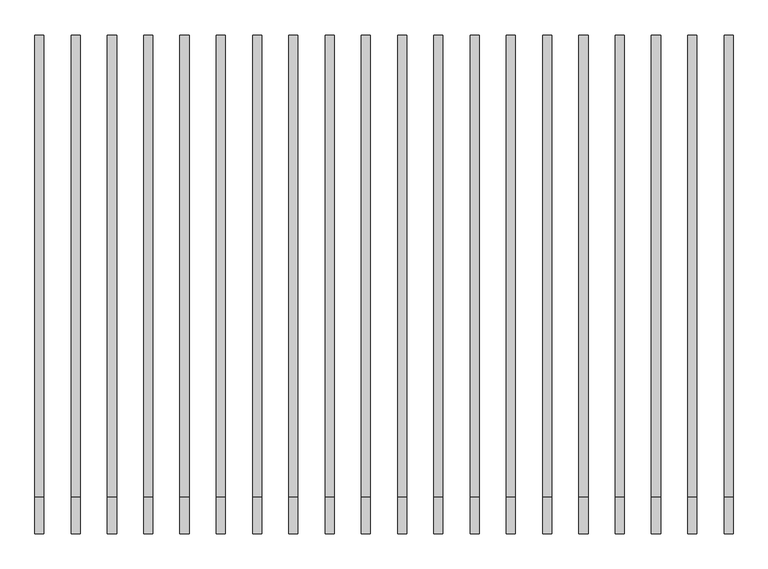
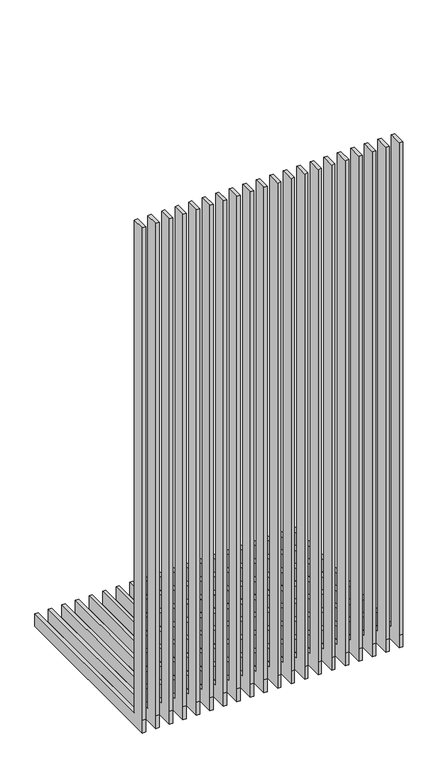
"""IFC4 building model written with IfcOpenShell, lengths in millimetres: railing geometry, 南向隔柵75 : 南向隔柵1."""

from ifc_helpers import new_model, si_unit, frame, origin, place, context, project, spatial, polyline, outline, extrude, source, transform, mapped, element, save


def railing_3cd46176(model_context):
    return source(origin(), model_context, "Body", "SweptSolid", [
        extrude(outline(polyline([(-27879.9049261, 22700.0), (-22779.9049261, 22700.0), (-22779.9049261, 22300.0), (-28279.9049261, 22300.0), (-28279.9049261, 22700.0), (-28279.9049261, 38100.0), (-27879.9049261, 38100.0), (-27879.9049261, 22700.0)])), frame((140.8689945, 0.0, 0.0), z_axis=(1.0, 0.0, 0.0), x_axis=(0.0, 1.0, 0.0)), (0.0, 0.0, 1.0), 100.0),
        extrude(outline(polyline([(-27879.9049261, 22700.0), (-22779.9049261, 22700.0), (-22779.9049261, 22300.0), (-28279.9049261, 22300.0), (-28279.9049261, 22700.0), (-28279.9049261, 38100.0), (-27879.9049261, 38100.0), (-27879.9049261, 22700.0)])), frame((-259.1310055, 0.0, 0.0), z_axis=(1.0, 0.0, 0.0), x_axis=(0.0, 1.0, 0.0)), (0.0, 0.0, 1.0), 100.0),
        extrude(outline(polyline([(-27879.9049261, 22700.0), (-22779.9049261, 22700.0), (-22779.9049261, 22300.0), (-28279.9049261, 22300.0), (-28279.9049261, 22700.0), (-28279.9049261, 38100.0), (-27879.9049261, 38100.0), (-27879.9049261, 22700.0)])), frame((-659.1310055, 0.0, 0.0), z_axis=(1.0, 0.0, 0.0), x_axis=(0.0, 1.0, 0.0)), (0.0, 0.0, 1.0), 100.0),
        extrude(outline(polyline([(-27879.9049261, 22700.0), (-22779.9049261, 22700.0), (-22779.9049261, 22300.0), (-28279.9049261, 22300.0), (-28279.9049261, 22700.0), (-28279.9049261, 38100.0), (-27879.9049261, 38100.0), (-27879.9049261, 22700.0)])), frame((-1059.1310055, 0.0, 0.0), z_axis=(1.0, 0.0, 0.0), x_axis=(0.0, 1.0, 0.0)), (0.0, 0.0, 1.0), 100.0),
        extrude(outline(polyline([(-27879.9049261, 22700.0), (-22779.9049261, 22700.0), (-22779.9049261, 22300.0), (-28279.9049261, 22300.0), (-28279.9049261, 22700.0), (-28279.9049261, 38100.0), (-27879.9049261, 38100.0), (-27879.9049261, 22700.0)])), frame((-1459.1310055, 0.0, 0.0), z_axis=(1.0, 0.0, 0.0), x_axis=(0.0, 1.0, 0.0)), (0.0, 0.0, 1.0), 100.0),
        extrude(outline(polyline([(-27879.9049261, 22700.0), (-22779.9049261, 22700.0), (-22779.9049261, 22300.0), (-28279.9049261, 22300.0), (-28279.9049261, 22700.0), (-28279.9049261, 38100.0), (-27879.9049261, 38100.0), (-27879.9049261, 22700.0)])), frame((-1859.1310055, 0.0, 0.0), z_axis=(1.0, 0.0, 0.0), x_axis=(0.0, 1.0, 0.0)), (0.0, 0.0, 1.0), 100.0),
        extrude(outline(polyline([(-27879.9049261, 22700.0), (-22779.9049261, 22700.0), (-22779.9049261, 22300.0), (-28279.9049261, 22300.0), (-28279.9049261, 22700.0), (-28279.9049261, 38100.0), (-27879.9049261, 38100.0), (-27879.9049261, 22700.0)])), frame((-2259.1310054, 0.0, 0.0), z_axis=(1.0, 0.0, 0.0), x_axis=(0.0, 1.0, 0.0)), (0.0, 0.0, 1.0), 100.0),
        extrude(outline(polyline([(-27879.9049261, 22700.0), (-22779.9049261, 22700.0), (-22779.9049261, 22300.0), (-28279.9049261, 22300.0), (-28279.9049261, 22700.0), (-28279.9049261, 38100.0), (-27879.9049261, 38100.0), (-27879.9049261, 22700.0)])), frame((-2659.1310054, 0.0, 0.0), z_axis=(1.0, 0.0, 0.0), x_axis=(0.0, 1.0, 0.0)), (0.0, 0.0, 1.0), 100.0),
        extrude(outline(polyline([(-27879.9049261, 22700.0), (-22779.9049261, 22700.0), (-22779.9049261, 22300.0), (-28279.9049261, 22300.0), (-28279.9049261, 22700.0), (-28279.9049261, 38100.0), (-27879.9049261, 38100.0), (-27879.9049261, 22700.0)])), frame((-3059.1310054, 0.0, 0.0), z_axis=(1.0, 0.0, 0.0), x_axis=(0.0, 1.0, 0.0)), (0.0, 0.0, 1.0), 100.0),
        extrude(outline(polyline([(-27879.9049261, 22700.0), (-22779.9049261, 22700.0), (-22779.9049261, 22300.0), (-28279.9049261, 22300.0), (-28279.9049261, 22700.0), (-28279.9049261, 38100.0), (-27879.9049261, 38100.0), (-27879.9049261, 22700.0)])), frame((-3459.1310054, 0.0, 0.0), z_axis=(1.0, 0.0, 0.0), x_axis=(0.0, 1.0, 0.0)), (0.0, 0.0, 1.0), 100.0),
        extrude(outline(polyline([(-27879.9049261, 22700.0), (-22779.9049261, 22700.0), (-22779.9049261, 22300.0), (-28279.9049261, 22300.0), (-28279.9049261, 22700.0), (-28279.9049261, 38100.0), (-27879.9049261, 38100.0), (-27879.9049261, 22700.0)])), frame((-3859.1310054, 0.0, 0.0), z_axis=(1.0, 0.0, 0.0), x_axis=(0.0, 1.0, 0.0)), (0.0, 0.0, 1.0), 100.0),
        extrude(outline(polyline([(-27879.9049261, 22700.0), (-22779.9049261, 22700.0), (-22779.9049261, 22300.0), (-28279.9049261, 22300.0), (-28279.9049261, 22700.0), (-28279.9049261, 38100.0), (-27879.9049261, 38100.0), (-27879.9049261, 22700.0)])), frame((-4259.1310054, 0.0, 0.0), z_axis=(1.0, 0.0, 0.0), x_axis=(0.0, 1.0, 0.0)), (0.0, 0.0, 1.0), 100.0),
        extrude(outline(polyline([(-27879.9049261, 22700.0), (-22779.9049261, 22700.0), (-22779.9049261, 22300.0), (-28279.9049261, 22300.0), (-28279.9049261, 22700.0), (-28279.9049261, 38100.0), (-27879.9049261, 38100.0), (-27879.9049261, 22700.0)])), frame((-4659.1310054, 0.0, 0.0), z_axis=(1.0, 0.0, 0.0), x_axis=(0.0, 1.0, 0.0)), (0.0, 0.0, 1.0), 100.0),
        extrude(outline(polyline([(-27879.9049261, 22700.0), (-22779.9049261, 22700.0), (-22779.9049261, 22300.0), (-28279.9049261, 22300.0), (-28279.9049261, 22700.0), (-28279.9049261, 38100.0), (-27879.9049261, 38100.0), (-27879.9049261, 22700.0)])), frame((-5059.1310054, 0.0, 0.0), z_axis=(1.0, 0.0, 0.0), x_axis=(0.0, 1.0, 0.0)), (0.0, 0.0, 1.0), 100.0),
        extrude(outline(polyline([(-27879.9049261, 22700.0), (-22779.9049261, 22700.0), (-22779.9049261, 22300.0), (-28279.9049261, 22300.0), (-28279.9049261, 22700.0), (-28279.9049261, 38100.0), (-27879.9049261, 38100.0), (-27879.9049261, 22700.0)])), frame((-5459.1310054, 0.0, 0.0), z_axis=(1.0, 0.0, 0.0), x_axis=(0.0, 1.0, 0.0)), (0.0, 0.0, 1.0), 100.0),
        extrude(outline(polyline([(-27879.9049261, 22700.0), (-22779.9049261, 22700.0), (-22779.9049261, 22300.0), (-28279.9049261, 22300.0), (-28279.9049261, 22700.0), (-28279.9049261, 38100.0), (-27879.9049261, 38100.0), (-27879.9049261, 22700.0)])), frame((-5859.1310054, 0.0, 0.0), z_axis=(1.0, 0.0, 0.0), x_axis=(0.0, 1.0, 0.0)), (0.0, 0.0, 1.0), 100.0),
        extrude(outline(polyline([(-27879.9049261, 22700.0), (-22779.9049261, 22700.0), (-22779.9049261, 22300.0), (-28279.9049261, 22300.0), (-28279.9049261, 22700.0), (-28279.9049261, 38100.0), (-27879.9049261, 38100.0), (-27879.9049261, 22700.0)])), frame((-6259.1310054, 0.0, 0.0), z_axis=(1.0, 0.0, 0.0), x_axis=(0.0, 1.0, 0.0)), (0.0, 0.0, 1.0), 100.0),
        extrude(outline(polyline([(-27879.9049261, 22700.0), (-22779.9049261, 22700.0), (-22779.9049261, 22300.0), (-28279.9049261, 22300.0), (-28279.9049261, 22700.0), (-28279.9049261, 38100.0), (-27879.9049261, 38100.0), (-27879.9049261, 22700.0)])), frame((-6659.1310053, 0.0, 0.0), z_axis=(1.0, 0.0, 0.0), x_axis=(0.0, 1.0, 0.0)), (0.0, 0.0, 1.0), 100.0),
        extrude(outline(polyline([(-27879.9049261, 22700.0), (-22779.9049261, 22700.0), (-22779.9049261, 22300.0), (-28279.9049261, 22300.0), (-28279.9049261, 22700.0), (-28279.9049261, 38100.0), (-27879.9049261, 38100.0), (-27879.9049261, 22700.0)])), frame((-7059.1310053, 0.0, 0.0), z_axis=(1.0, 0.0, 0.0), x_axis=(0.0, 1.0, 0.0)), (0.0, 0.0, 1.0), 100.0),
        extrude(outline(polyline([(-27879.9049261, 22700.0), (-22779.9049261, 22700.0), (-22779.9049261, 22300.0), (-28279.9049261, 22300.0), (-28279.9049261, 22700.0), (-28279.9049261, 38100.0), (-27879.9049261, 38100.0), (-27879.9049261, 22700.0)])), frame((-7459.1310053, 0.0, 0.0), z_axis=(1.0, 0.0, 0.0), x_axis=(0.0, 1.0, 0.0)), (0.0, 0.0, 1.0), 100.0),
    ])


if __name__ == "__main__":
    model = new_model("IFC4")
    model_context = context("Model", 3, world=origin())
    ifc_project = project(units=[si_unit("LENGTHUNIT", "METRE", prefix="MILLI")], contexts=[model_context])
    site = spatial("IfcSite", under=ifc_project)
    building = spatial("IfcBuilding", under=site)
    placement = place(None, origin())
    railing_shape = railing_3cd46176(model_context)
    element("IfcRailing", 1, ObjectType="南向隔柵75 : 南向隔柵1", at=placement, inside=building, context=model_context, shape_type="MappedRepresentation", body=[
        mapped(railing_shape, transform((0.0, 0.0, 0.0), x_axis=(1.0, 0.0, 0.0), y_axis=(0.0, 1.0, 0.0), z_axis=(0.0, 0.0, 1.0))),
    ])
    save(model, "model.ifc")
